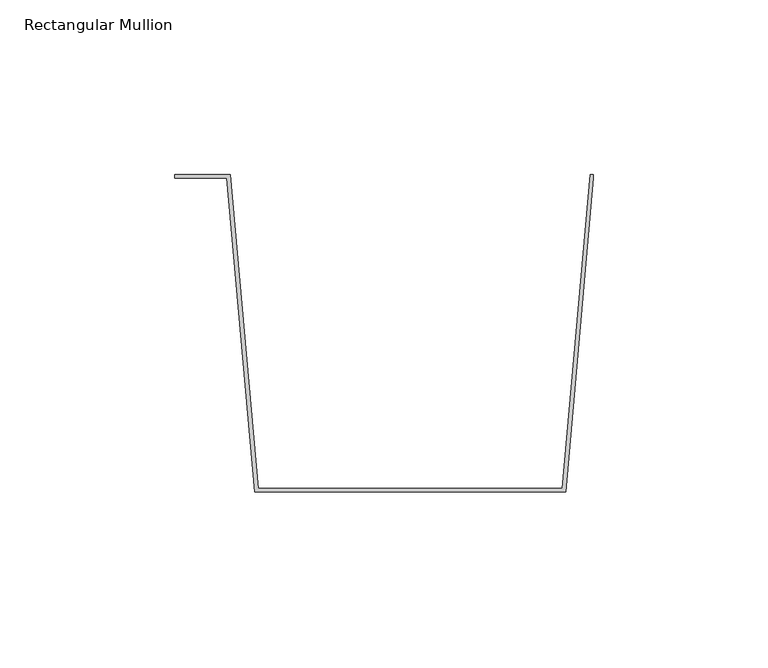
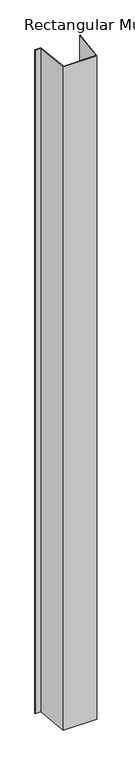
"""IFC4 building model written with IfcOpenShell, lengths in millimetres: member geometry, Rectangular Mullion : CD_NINELINE_Box Intermediate 20mm pan."""

from ifc_helpers import new_model, si_unit, frame, origin, place, context, project, spatial, polyline, outline, extrude, source, transform, mapped, element, save


def rectangular_mullion_7cdc1a84(model_context):
    return source(origin(), model_context, "Body", "SweptSolid", [
        extrude(outline(polyline([(74.0, 0.0), (89.911879, 0.0), (97.911879, -90.0), (185.088121, -90.0), (193.088121, 0.0), (194.0, 0.0), (194.0, -1.0357186), (186.0, -91.0357186), (97.0, -91.0357186), (88.996825, -1.0), (74.0, -1.0), (74.0, 0.0)])), frame((0.0, 0.0, -1860.0), z_axis=(0.0, 0.0, 1.0), x_axis=(1.0, 0.0, 0.0)), (0.0, 0.0, 1.0), 1860.0),
    ])


if __name__ == "__main__":
    model = new_model("IFC4")
    model_context = context("Model", 3, world=origin())
    ifc_project = project(units=[si_unit("LENGTHUNIT", "METRE", prefix="MILLI")], contexts=[model_context])
    site = spatial("IfcSite", under=ifc_project)
    building = spatial("IfcBuilding", under=site)
    placement = place(None, origin())
    rectangular_mullion_shape = rectangular_mullion_7cdc1a84(model_context)
    element("IfcMember", 1, ObjectType="Rectangular Mullion : CD_NINELINE_Box Intermediate 20mm pan", at=placement, inside=building, context=model_context, shape_type="MappedRepresentation", body=[
        mapped(rectangular_mullion_shape, transform((0.0, 0.0, 0.0), x_axis=(1.0, 0.0, 0.0), y_axis=(0.0, 1.0, 0.0), z_axis=(0.0, 0.0, 1.0))),
    ])
    save(model, "model.ifc")
